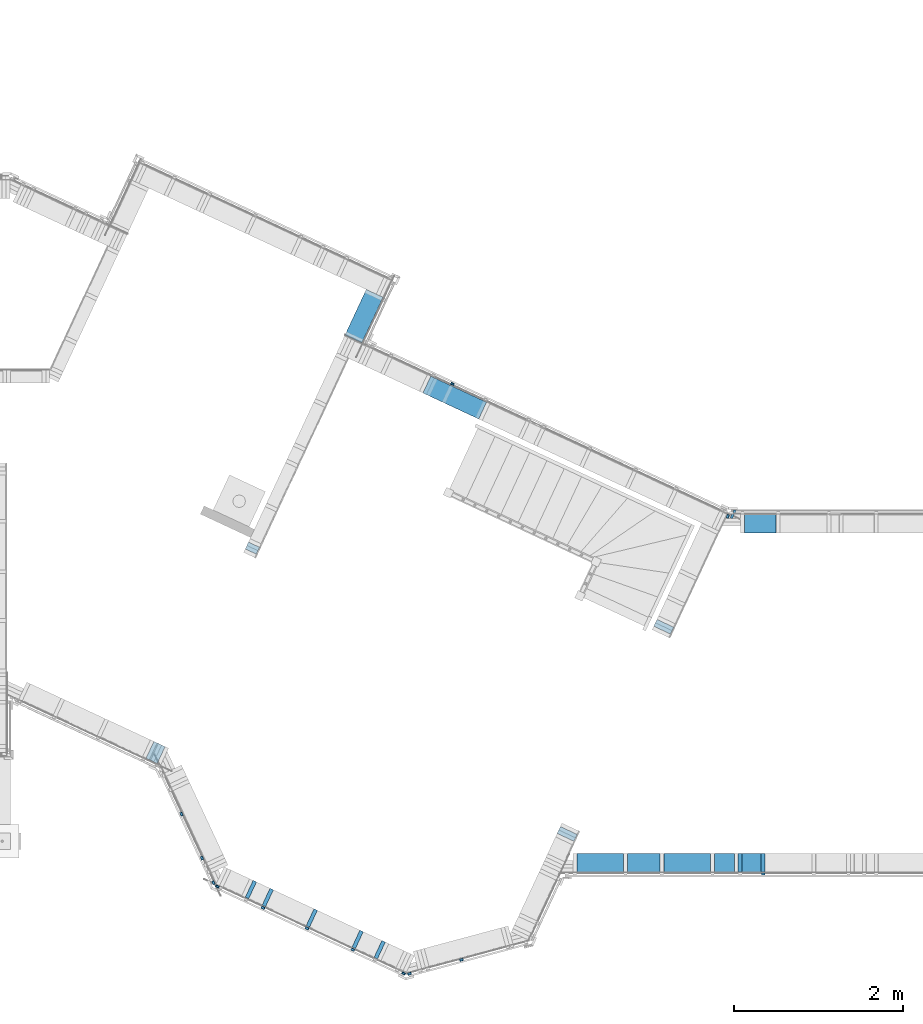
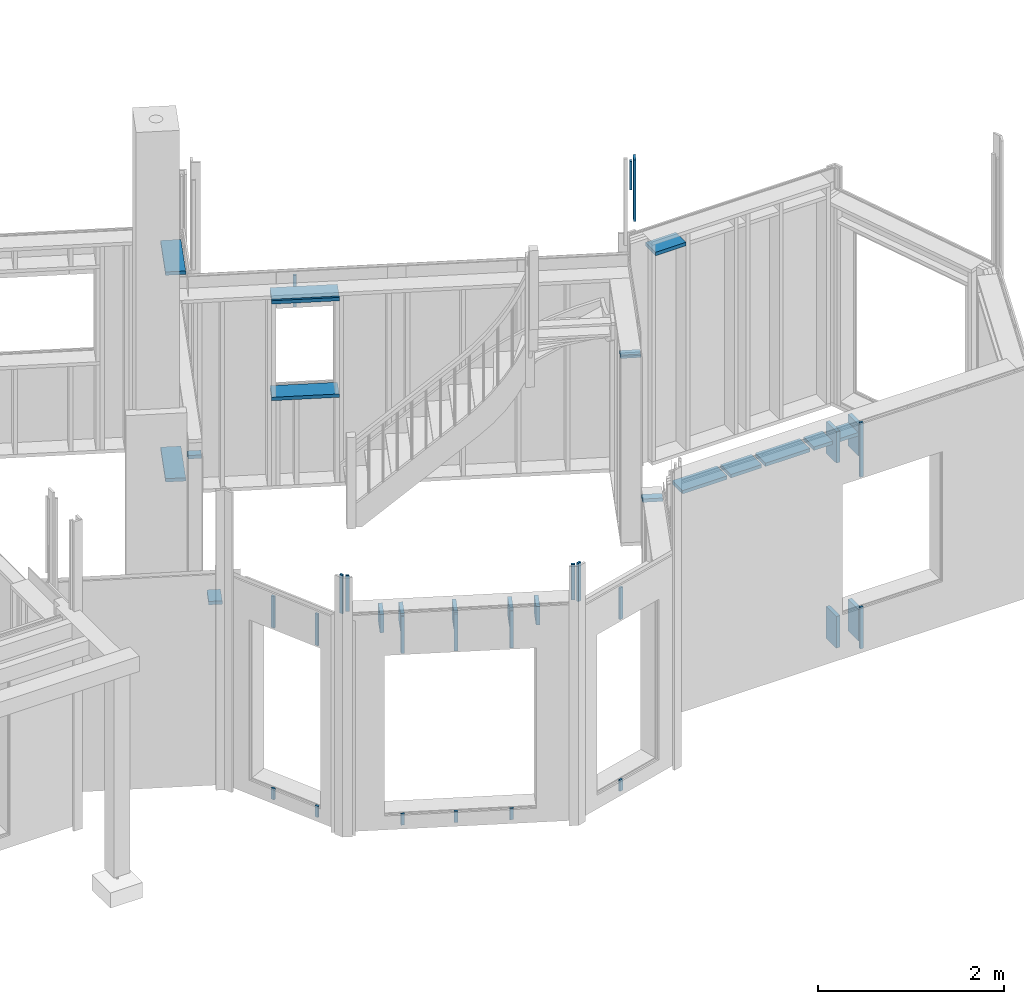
# One storey, part 19 of 34: 45 members.
"""IFC2X3 building model written with IfcOpenShell, lengths in metres."""

from ifc_helpers import new_model, si_unit, direction, frame, origin_with_axes, place, context, subcontext, project, spatial, faceted_brep, material, element, save


model = new_model("IFC2X3")

# Units and contexts
model_context = context("Model", 3, precision=1e-06, world=origin_with_axes(), true_north=direction((0.0, 1.0, 0.0)))
body_context = subcontext(model_context, "Body", "Model", "MODEL_VIEW")
ifc_project = project(units=[si_unit("LENGTHUNIT", "METRE"), si_unit("AREAUNIT", "SQUARE_METRE"), si_unit("VOLUMEUNIT", "CUBIC_METRE"), si_unit("PLANEANGLEUNIT", "RADIAN")], contexts=[model_context])

# Site, building, storey
site_placement = place(None, origin_with_axes())
site = spatial("IfcSite", under=ifc_project, at=site_placement, CompositionType="ELEMENT")
building_placement = place(site_placement, origin_with_axes())
building = spatial("IfcBuilding", under=site, at=building_placement, Name="Building 1", CompositionType="ELEMENT")
storey_placement = place(building_placement, origin_with_axes())
storey = spatial("IfcBuildingStorey", under=building, at=storey_placement, Name="Rez de chaussée", CompositionType="ELEMENT", Elevation=0.0)

# Members
ifc_material_1 = material(Name="Epicéa C24")
member_1_placement = place(storey_placement, frame((9.5995715, -0.5172014, 2.76), z_axis=(-0.4226183, -0.9063078, 0.0), x_axis=(0.0, 0.0, -1.0)))
element("IfcMember", 1, at=member_1_placement, inside=storey, material=ifc_material_1, Name="Montant", context=body_context, shape_type="Brep", body=[
    faceted_brep([(0.0, -0.0225, 0.11), (0.0, 0.0225, 0.11), (0.0, 0.0225, -0.11), (0.0, -0.0225, -0.11), (0.24, -0.0225, -0.11), (0.24, -0.0225, 0.11), (0.24, 0.0225, -0.11), (0.24, 0.0225, 0.11)], [[[0, 1, 2, 3]], [[4, 5, 0, 3]], [[6, 4, 3, 2]], [[7, 6, 2, 1]], [[5, 7, 1, 0]], [[6, 7, 5, 4]]]),
])
member_2_placement = place(storey_placement, frame((11.987401, 5.4772138, 2.675), z_axis=(0.4226183, 0.9063078, 0.0), x_axis=(0.0, 0.0, -1.0)))
element("IfcMember", 2, at=member_2_placement, inside=storey, material=ifc_material_1, Name="latte 27/40", context=body_context, shape_type="Brep", body=[
    faceted_brep([(0.415, -0.02, -0.012), (0.415, -0.02, 0.012), (0.0, -0.02, 0.012), (0.0, -0.02, -0.012), (0.415, 0.02, -0.012), (0.0, 0.02, -0.012), (0.415, 0.02, 0.012), (0.0, 0.02, 0.012)], [[[0, 1, 2, 3]], [[4, 0, 3, 5]], [[6, 4, 5, 7]], [[1, 6, 7, 2]], [[0, 4, 6, 1]], [[2, 7, 5, 3]]]),
])
member_3_placement = place(storey_placement, frame((11.066731, 6.550039, 0.0675), z_axis=(0.9063078, -0.4226183, 0.0), x_axis=(-0.4226183, -0.9063078, 0.0)))
element("IfcMember", 3, at=member_3_placement, inside=storey, material=ifc_material_1, Name="Lisse basse", context=body_context, shape_type="Brep", body=[
    faceted_brep([(0.0, -0.0225, 0.11), (0.0, 0.0225, 0.11), (0.0, 0.0225, -0.11), (0.0, -0.0225, -0.11), (0.5962178, -0.0225, -0.11), (0.5962178, 0.0225, -0.11), (0.5962178, 0.0225, 0.11), (0.5962178, -0.0225, 0.11)], [[[0, 1, 2, 3]], [[4, 5, 6, 7]], [[3, 4, 7, 0]], [[5, 4, 3, 2]], [[6, 5, 2, 1]], [[7, 6, 1, 0]]]),
])
member_4_placement = place(storey_placement, frame((8.776732, 0.3782639, 0.152), z_axis=(-0.9063078, -0.4226183, 0.0), x_axis=(0.0, 0.0, -1.0)))
element("IfcMember", 4, at=member_4_placement, inside=storey, material=ifc_material_1, Name="latte 27/40", context=body_context, shape_type="Brep", body=[
    faceted_brep([(0.147, 0.02, -0.012), (0.147, 0.02, 0.012), (0.147, -0.02, 0.012), (0.147, -0.02, -0.012), (0.0, 0.02, 0.012), (0.0, 0.02, -0.012), (0.0, -0.02, -0.012), (0.0, -0.02, 0.012)], [[[0, 1, 2, 3]], [[4, 5, 6, 7]], [[3, 6, 5, 0]], [[2, 7, 6, 3]], [[1, 4, 7, 2]], [[0, 5, 4, 1]]]),
])
ifc_material_2 = material(Name="NH II")
member_5_placement = place(storey_placement, frame((15.3162671, 3.9332134, 3.18), z_axis=(-0.4226183, -0.9063078, 0.0), x_axis=(0.0, 0.0, 1.0)))
element("IfcMember", 5, at=member_5_placement, inside=storey, material=ifc_material_2, Name="Couvre joint", context=body_context, shape_type="Brep", body=[
    faceted_brep([(0.8110549, 0.0135, -0.0525), (0.8110549, 0.0135, 0.0525), (0.8110549, -0.0135, 0.0525), (0.8110549, -0.0135, -0.0525), (0.0, 0.0135, 0.0525), (0.0, 0.0135, -0.0525), (0.0, -0.0135, -0.0525), (0.0, -0.0135, 0.0525)], [[[0, 1, 2, 3]], [[4, 5, 6, 7]], [[3, 6, 5, 0]], [[2, 7, 6, 3]], [[1, 4, 7, 2]], [[0, 5, 4, 1]]]),
])
member_6_placement = place(storey_placement, frame((11.4792687, -1.5149439, 3.3186496), z_axis=(0.258819, -0.9659258, 0.0), x_axis=(0.0, 0.0, -1.0)))
element("IfcMember", 6, at=member_6_placement, inside=storey, material=ifc_material_1, Name="latte chantier", context=body_context, shape_type="Brep", body=[
    faceted_brep([(0.5086496, 0.02, -0.012), (0.5086496, 0.02, 0.012), (0.5086496, -0.02, 0.012), (0.5086496, -0.02, -0.012), (0.0, 0.02, 0.012), (0.0, 0.02, -0.012), (0.0, -0.02, -0.012), (0.0, -0.02, 0.012)], [[[0, 1, 2, 3]], [[4, 5, 6, 7]], [[3, 6, 5, 0]], [[2, 7, 6, 3]], [[1, 4, 7, 2]], [[0, 5, 4, 1]]]),
])
member_7_placement = place(storey_placement, frame((15.6483032, -0.19822, 2.807), z_axis=(0.0, -1.0, 0.0), x_axis=(-1.0, 0.0, 0.0)))
element("IfcMember", 7, at=member_7_placement, inside=storey, material=ifc_material_1, Name="Montant", context=body_context, shape_type="Brep", body=[
    faceted_brep([(0.0, 0.0225, -0.11), (0.0, -0.0225, -0.11), (0.0, -0.0225, 0.11), (0.0, 0.0225, 0.11), (0.2247667, -0.0225, -0.11), (0.2247667, -0.0225, 0.11), (0.2247667, 0.0225, -0.11), (0.2247667, 0.0225, 0.11)], [[[0, 1, 2, 3]], [[2, 1, 4, 5]], [[1, 0, 6, 4]], [[5, 4, 6, 7]], [[3, 2, 5, 7]], [[0, 3, 7, 6]]]),
])
member_8_placement = place(storey_placement, frame((9.0199489, -0.1433163, 2.675), z_axis=(-0.9063078, -0.4226183, 0.0), x_axis=(0.0, 0.0, -1.0)))
element("IfcMember", 8, at=member_8_placement, inside=storey, material=ifc_material_1, Name="latte 27/40", context=body_context, shape_type="Brep", body=[
    faceted_brep([(0.415, 0.02, -0.012), (0.415, 0.02, 0.012), (0.415, -0.02, 0.012), (0.415, -0.02, -0.012), (0.0, 0.02, 0.012), (0.0, 0.02, -0.012), (0.0, -0.02, -0.012), (0.0, -0.02, 0.012)], [[[0, 1, 2, 3]], [[4, 5, 6, 7]], [[3, 6, 5, 0]], [[2, 7, 6, 3]], [[1, 4, 7, 2]], [[0, 5, 4, 1]]]),
])
member_9_placement = place(storey_placement, frame((9.0199489, -0.1433163, 0.152), z_axis=(-0.9063078, -0.4226183, 0.0), x_axis=(0.0, 0.0, -1.0)))
element("IfcMember", 9, at=member_9_placement, inside=storey, material=ifc_material_1, Name="latte 27/40", context=body_context, shape_type="Brep", body=[
    faceted_brep([(0.147, 0.02, -0.012), (0.147, 0.02, 0.012), (0.147, -0.02, 0.012), (0.147, -0.02, -0.012), (0.0, 0.02, 0.012), (0.0, 0.02, -0.012), (0.0, -0.02, -0.012), (0.0, -0.02, 0.012)], [[[0, 1, 2, 3]], [[4, 5, 6, 7]], [[3, 6, 5, 0]], [[2, 7, 6, 3]], [[1, 4, 7, 2]], [[0, 5, 4, 1]]]),
])
for number, where, z_axis, x_axis, name in (
    (10, (8.776732, 0.3782639, 2.675), (-0.9063078, -0.4226183, 0.0), (0.0, 0.0, -1.0), "latte 27/40"),
    (11, (12.0950464, -1.3499468, 2.675), (0.258819, -0.9659258, 0.0), (0.0, 0.0, -1.0), "latte 27/40"),
):
    element("IfcMember", number, at=place(storey_placement, frame(where, z_axis=z_axis, x_axis=x_axis)), inside=storey, material=ifc_material_1, Name=name, context=body_context, shape_type="Brep", body=[
        faceted_brep([(0.415, 0.02, -0.012), (0.415, 0.02, 0.012), (0.415, -0.02, 0.012), (0.415, -0.02, -0.012), (0.0, 0.02, 0.012), (0.0, 0.02, -0.012), (0.0, -0.02, -0.012), (0.0, -0.02, 0.012)], [[[0, 1, 2, 3]], [[4, 5, 6, 7]], [[3, 6, 5, 0]], [[2, 7, 6, 3]], [[1, 4, 7, 2]], [[0, 5, 4, 1]]]),
    ])
member_10_placement = place(storey_placement, frame((11.1267001, -1.2293131, 2.76), z_axis=(-0.4226183, -0.9063078, 0.0), x_axis=(0.0, 0.0, -1.0)))
element("IfcMember", 12, at=member_10_placement, inside=storey, material=ifc_material_1, Name="Montant", context=body_context, shape_type="Brep", body=[
    faceted_brep([(0.0, -0.0225, 0.11), (0.0, 0.0225, 0.11), (0.0, 0.0225, -0.11), (0.0, -0.0225, -0.11), (0.24, -0.0225, -0.11), (0.24, -0.0225, 0.11), (0.24, 0.0225, -0.11), (0.24, 0.0225, 0.11)], [[[0, 1, 2, 3]], [[4, 5, 0, 3]], [[6, 4, 3, 2]], [[7, 6, 2, 1]], [[5, 7, 1, 0]], [[6, 7, 5, 4]]]),
])
member_11_placement = place(storey_placement, frame((12.0950464, -1.3499468, 0.152), z_axis=(0.258819, -0.9659258, 0.0), x_axis=(0.0, 0.0, -1.0)))
element("IfcMember", 13, at=member_11_placement, inside=storey, material=ifc_material_1, Name="latte 27/40", context=body_context, shape_type="Brep", body=[
    faceted_brep([(0.147, 0.02, -0.012), (0.147, 0.02, 0.012), (0.147, -0.02, 0.012), (0.147, -0.02, -0.012), (0.0, 0.02, 0.012), (0.0, 0.02, -0.012), (0.0, -0.02, -0.012), (0.0, -0.02, 0.012)], [[[0, 1, 2, 3]], [[4, 5, 6, 7]], [[3, 6, 5, 0]], [[2, 7, 6, 3]], [[1, 4, 7, 2]], [[0, 5, 4, 1]]]),
])
member_12_placement = place(storey_placement, frame((9.7999195, -0.6106252, 2.76), z_axis=(-0.4226183, -0.9063078, 0.0), x_axis=(0.0, 0.0, -1.0)))
element("IfcMember", 14, at=member_12_placement, inside=storey, material=ifc_material_1, Name="Montant", context=body_context, shape_type="Brep", body=[
    faceted_brep([(0.0, -0.0225, 0.11), (0.0, 0.0225, 0.11), (0.0, 0.0225, -0.11), (0.0, -0.0225, -0.11), (0.24, -0.0225, -0.11), (0.24, -0.0225, 0.11), (0.24, 0.0225, -0.11), (0.24, 0.0225, 0.11)], [[[0, 1, 2, 3]], [[4, 5, 0, 3]], [[6, 4, 3, 2]], [[7, 6, 2, 1]], [[5, 7, 1, 0]], [[6, 7, 5, 4]]]),
])
member_13_placement = place(storey_placement, frame((15.6708032, -0.19822, 2.935), z_axis=(0.0, -1.0, 0.0), x_axis=(0.0, 0.0, -1.0)))
element("IfcMember", 15, at=member_13_placement, inside=storey, material=ifc_material_1, Name="Montant", context=body_context, shape_type="Brep", body=[
    faceted_brep([(0.0, 0.0225, 0.11), (0.0, -0.0225, 0.11), (0.415, -0.0225, 0.11), (0.415, 0.0225, 0.11), (0.415, 0.0225, -0.11), (0.0, 0.0225, -0.11), (0.415, -0.0225, -0.11), (0.0, -0.0225, -0.11)], [[[0, 1, 2, 3]], [[3, 4, 5, 0]], [[4, 6, 7, 5]], [[6, 2, 1, 7]], [[2, 6, 4, 3]], [[1, 0, 5, 7]]]),
])
member_14_placement = place(storey_placement, frame((12.3467978, 5.1606684, 2.4975), z_axis=(0.4226183, 0.9063078, 0.0), x_axis=(-0.9063078, 0.4226183, 0.0)))
element("IfcMember", 16, at=member_14_placement, inside=storey, material=ifc_material_1, Name="Montant", context=body_context, shape_type="Brep", body=[
    faceted_brep([(0.73, -0.0225, -0.11), (0.73, 0.0225, -0.11), (0.73, 0.0225, 0.11), (0.73, -0.0225, 0.11), (0.0, 0.0225, 0.11), (0.0, -0.0225, 0.11), (0.0, 0.0225, -0.11), (0.0, -0.0225, -0.11)], [[[0, 1, 2, 3]], [[3, 2, 4, 5]], [[2, 1, 6, 4]], [[6, 7, 5, 4]], [[0, 3, 5, 7]], [[1, 0, 7, 6]]]),
])
member_15_placement = place(storey_placement, frame((11.4105973, -1.5106526, 3.3186496), z_axis=(-0.4226183, -0.9063078, 0.0), x_axis=(0.0, 0.0, -1.0)))
element("IfcMember", 17, at=member_15_placement, inside=storey, material=ifc_material_1, Name="latte chantier", context=body_context, shape_type="Brep", body=[
    faceted_brep([(0.4686496, 0.02, 0.012), (0.0, 0.02, 0.012), (0.0, -0.02, 0.012), (0.4686496, -0.02, 0.012), (0.0, -0.02, -0.012), (0.4686496, -0.02, -0.012), (0.0, 0.02, -0.012), (0.4686496, 0.02, -0.012)], [[[0, 1, 2, 3]], [[3, 2, 4, 5]], [[5, 4, 6, 7]], [[7, 6, 1, 0]], [[7, 0, 3, 5]], [[1, 6, 4, 2]]]),
])
member_16_placement = place(storey_placement, frame((15.3980365, -0.19822, 2.935), z_axis=(0.0, -1.0, 0.0), x_axis=(0.0, 0.0, -1.0)))
element("IfcMember", 18, at=member_16_placement, inside=storey, material=ifc_material_1, Name="Montant", context=body_context, shape_type="Brep", body=[
    faceted_brep([(0.0, 0.0225, 0.11), (0.0, -0.0225, 0.11), (0.415, -0.0225, 0.11), (0.415, 0.0225, 0.11), (0.415, 0.0225, -0.11), (0.0, 0.0225, -0.11), (0.415, -0.0225, -0.11), (0.0, -0.0225, -0.11)], [[[0, 1, 2, 3]], [[3, 4, 5, 0]], [[4, 6, 7, 5]], [[6, 2, 1, 7]], [[2, 6, 4, 3]], [[1, 0, 5, 7]]]),
])
member_17_placement = place(storey_placement, frame((15.3980365, -0.19822, 0.507), z_axis=(0.0, -1.0, 0.0), x_axis=(0.0, 0.0, -1.0)))
element("IfcMember", 19, at=member_17_placement, inside=storey, material=ifc_material_1, Name="Montant", context=body_context, shape_type="Brep", body=[
    faceted_brep([(0.417, -0.0225, -0.11), (0.417, 0.0225, -0.11), (0.417, 0.0225, 0.11), (0.417, -0.0225, 0.11), (0.0, -0.0225, 0.11), (0.0, -0.0225, -0.11), (0.0, 0.0225, -0.11), (0.0, 0.0225, 0.11)], [[[0, 1, 2, 3]], [[0, 3, 4, 5]], [[1, 0, 5, 6]], [[2, 1, 6, 7]], [[3, 2, 7, 4]], [[4, 7, 6, 5]]]),
])
member_18_placement = place(storey_placement, frame((9.742866, -0.7329767, 2.745), z_axis=(-0.4226183, -0.9063078, 0.0), x_axis=(0.0, 0.0, -1.0)))
element("IfcMember", 20, at=member_18_placement, inside=storey, material=ifc_material_1, Name="latte 27/40", context=body_context, shape_type="Brep", body=[
    faceted_brep([(0.0, -0.02, 0.012), (0.0, 0.02, 0.012), (0.0, 0.02, -0.012), (0.0, -0.02, -0.012), (0.485, -0.02, 0.012), (0.485, 0.02, 0.012), (0.485, -0.02, -0.012), (0.485, 0.02, -0.012)], [[[0, 1, 2, 3]], [[4, 5, 1, 0]], [[6, 4, 0, 3]], [[5, 7, 2, 1]], [[7, 6, 3, 2]], [[5, 4, 6, 7]]]),
])
member_19_placement = place(storey_placement, frame((13.3294192, 0.10187, 2.5025), z_axis=(-0.9063078, 0.4226183, 0.0), x_axis=(0.4226183, 0.9063078, 0.0)))
element("IfcMember", 21, at=member_19_placement, inside=storey, material=ifc_material_1, Name="Montant", context=body_context, shape_type="Brep", body=[
    faceted_brep([(0.0, -0.0225, -0.11), (0.0, -0.0225, 0.11), (0.0, 0.0225, 0.11), (0.0, 0.0225, -0.11), (0.09, -0.0225, 0.11), (0.09, 0.0225, 0.11), (0.09, -0.0225, -0.11), (0.09, 0.0225, -0.11)], [[[0, 1, 2, 3]], [[2, 1, 4, 5]], [[1, 0, 6, 4]], [[5, 4, 6, 7]], [[0, 3, 7, 6]], [[3, 2, 5, 7]]]),
])
member_20_placement = place(storey_placement, frame((15.2527816, 3.9070966, 3.9860549), z_axis=(0.9063078, -0.4226183, 0.0), x_axis=(0.0, 0.0, -1.0)))
element("IfcMember", 22, at=member_20_placement, inside=storey, material=ifc_material_1, Name="latte chantier", context=body_context, shape_type="Brep", body=[
    faceted_brep([(0.3776331, 0.02, -0.012), (0.3776331, 0.02, 0.012), (0.3776331, -0.02, 0.012), (0.3776331, -0.02, -0.012), (0.0, 0.02, 0.012), (0.0, 0.02, -0.012), (0.0, -0.02, -0.012), (0.0, -0.02, 0.012)], [[[0, 1, 2, 3]], [[4, 5, 6, 7]], [[3, 6, 5, 0]], [[2, 7, 6, 3]], [[1, 4, 7, 2]], [[0, 5, 4, 1]]]),
])
member_21_placement = place(storey_placement, frame((15.3305365, -0.19822, 2.807), z_axis=(0.0, -1.0, 0.0), x_axis=(-1.0, 0.0, 0.0)))
element("IfcMember", 23, at=member_21_placement, inside=storey, material=ifc_material_1, Name="Montant", context=body_context, shape_type="Brep", body=[
    faceted_brep([(0.0, -0.0225, 0.11), (0.0, 0.0225, 0.11), (0.0, 0.0225, -0.11), (0.0, -0.0225, -0.11), (0.2342333, 0.0225, 0.11), (0.2342333, 0.0225, -0.11), (0.2342333, -0.0225, 0.11), (0.2342333, -0.0225, -0.11)], [[[0, 1, 2, 3]], [[2, 1, 4, 5]], [[1, 0, 6, 4]], [[5, 4, 6, 7]], [[3, 2, 5, 7]], [[0, 3, 7, 6]]]),
])
member_22_placement = place(storey_placement, frame((10.2644461, -0.9761935, 2.745), z_axis=(-0.4226183, -0.9063078, 0.0), x_axis=(0.0, 0.0, -1.0)))
element("IfcMember", 24, at=member_22_placement, inside=storey, material=ifc_material_1, Name="latte 27/40", context=body_context, shape_type="Brep", body=[
    faceted_brep([(0.0, -0.02, 0.012), (0.0, 0.02, 0.012), (0.0, 0.02, -0.012), (0.0, -0.02, -0.012), (0.485, -0.02, 0.012), (0.485, 0.02, 0.012), (0.485, -0.02, -0.012), (0.485, 0.02, -0.012)], [[[0, 1, 2, 3]], [[4, 5, 1, 0]], [[6, 4, 0, 3]], [[5, 7, 2, 1]], [[7, 6, 3, 2]], [[5, 4, 6, 7]]]),
])
member_23_placement = place(storey_placement, frame((10.2644461, -0.9761935, 0.152), z_axis=(-0.4226183, -0.9063078, 0.0), x_axis=(0.0, 0.0, -1.0)))
element("IfcMember", 25, at=member_23_placement, inside=storey, material=ifc_material_1, Name="latte 27/40", context=body_context, shape_type="Brep", body=[
    faceted_brep([(0.0, -0.02, 0.012), (0.0, 0.02, 0.012), (0.0, 0.02, -0.012), (0.0, -0.02, -0.012), (0.147, 0.02, -0.012), (0.147, -0.02, -0.012), (0.147, 0.02, 0.012), (0.147, -0.02, 0.012)], [[[0, 1, 2, 3]], [[3, 2, 4, 5]], [[2, 1, 6, 4]], [[1, 0, 7, 6]], [[6, 7, 5, 4]], [[0, 3, 5, 7]]]),
])
member_24_placement = place(storey_placement, frame((10.8652843, -1.1074129, 2.76), z_axis=(-0.4226183, -0.9063078, 0.0), x_axis=(0.0, 0.0, -1.0)))
element("IfcMember", 26, at=member_24_placement, inside=storey, material=ifc_material_1, Name="Montant", context=body_context, shape_type="Brep", body=[
    faceted_brep([(0.0, -0.0225, 0.11), (0.0, 0.0225, 0.11), (0.0, 0.0225, -0.11), (0.0, -0.0225, -0.11), (0.24, -0.0225, -0.11), (0.24, -0.0225, 0.11), (0.24, 0.0225, -0.11), (0.24, 0.0225, 0.11)], [[[0, 1, 2, 3]], [[4, 5, 0, 3]], [[6, 4, 3, 2]], [[7, 6, 2, 1]], [[5, 7, 1, 0]], [[6, 7, 5, 4]]]),
])
member_25_placement = place(storey_placement, frame((10.8082308, -1.2297645, 0.152), z_axis=(-0.4226183, -0.9063078, 0.0), x_axis=(0.0, 0.0, -1.0)))
element("IfcMember", 27, at=member_25_placement, inside=storey, material=ifc_material_1, Name="latte 27/40", context=body_context, shape_type="Brep", body=[
    faceted_brep([(0.0, -0.02, 0.012), (0.0, 0.02, 0.012), (0.0, 0.02, -0.012), (0.0, -0.02, -0.012), (0.147, 0.02, -0.012), (0.147, -0.02, -0.012), (0.147, 0.02, 0.012), (0.147, -0.02, 0.012)], [[[0, 1, 2, 3]], [[3, 2, 4, 5]], [[2, 1, 6, 4]], [[1, 0, 7, 6]], [[6, 7, 5, 4]], [[0, 3, 5, 7]]]),
])
member_26_placement = place(storey_placement, frame((10.8082308, -1.2297645, 2.745), z_axis=(-0.4226183, -0.9063078, 0.0), x_axis=(0.0, 0.0, -1.0)))
element("IfcMember", 28, at=member_26_placement, inside=storey, material=ifc_material_1, Name="latte 27/40", context=body_context, shape_type="Brep", body=[
    faceted_brep([(0.0, -0.02, 0.012), (0.0, 0.02, 0.012), (0.0, 0.02, -0.012), (0.0, -0.02, -0.012), (0.485, -0.02, 0.012), (0.485, 0.02, 0.012), (0.485, -0.02, -0.012), (0.485, 0.02, -0.012)], [[[0, 1, 2, 3]], [[4, 5, 1, 0]], [[6, 4, 0, 3]], [[5, 7, 2, 1]], [[7, 6, 3, 2]], [[5, 4, 6, 7]]]),
])
member_27_placement = place(storey_placement, frame((10.3214996, -0.853842, 2.76), z_axis=(-0.4226183, -0.9063078, 0.0), x_axis=(0.0, 0.0, -1.0)))
element("IfcMember", 29, at=member_27_placement, inside=storey, material=ifc_material_1, Name="Montant", context=body_context, shape_type="Brep", body=[
    faceted_brep([(0.0, -0.0225, 0.11), (0.0, 0.0225, 0.11), (0.0, 0.0225, -0.11), (0.0, -0.0225, -0.11), (0.24, -0.0225, -0.11), (0.24, -0.0225, 0.11), (0.24, 0.0225, -0.11), (0.24, 0.0225, 0.11)], [[[0, 1, 2, 3]], [[4, 5, 0, 3]], [[6, 4, 3, 2]], [[7, 6, 2, 1]], [[5, 7, 1, 0]], [[6, 7, 5, 4]]]),
])
member_28_placement = place(storey_placement, frame((15.6708032, -0.33322, 2.975), z_axis=(0.0, -1.0, 0.0), x_axis=(0.0, 0.0, -1.0)))
element("IfcMember", 30, at=member_28_placement, inside=storey, material=ifc_material_1, Name="latte 27/40", context=body_context, shape_type="Brep", body=[
    faceted_brep([(0.715, -0.02, -0.012), (0.715, -0.02, 0.012), (0.0, -0.02, 0.012), (0.0, -0.02, -0.012), (0.715, 0.02, -0.012), (0.0, 0.02, -0.012), (0.715, 0.02, 0.012), (0.0, 0.02, 0.012)], [[[0, 1, 2, 3]], [[4, 0, 3, 5]], [[6, 4, 5, 7]], [[1, 6, 7, 2]], [[6, 1, 0, 4]], [[2, 7, 5, 3]]]),
])
member_29_placement = place(storey_placement, frame((9.5984317, 3.4899937, 2.3225), z_axis=(-0.9063078, 0.4226183, 0.0), x_axis=(0.4226183, 0.9063078, 0.0)))
element("IfcMember", 31, at=member_29_placement, inside=storey, material=ifc_material_1, Name="Montant", context=body_context, shape_type="Brep", body=[
    faceted_brep([(0.0, 0.0225, -0.0725), (0.09, 0.0225, -0.0725), (0.09, -0.0225, -0.0725), (0.0, -0.0225, -0.0725), (0.09, 0.0225, 0.0725), (0.09, -0.0225, 0.0725), (0.0, -0.0225, 0.0725), (0.0, 0.0225, 0.0725)], [[[0, 1, 2, 3]], [[4, 5, 2, 1]], [[5, 6, 3, 2]], [[7, 4, 1, 0]], [[6, 5, 4, 7]], [[6, 7, 0, 3]]]),
])
member_30_placement = place(storey_placement, frame((14.4746404, 2.5578047, 2.5025), z_axis=(-0.9063078, 0.4226183, 0.0), x_axis=(0.4226183, 0.9063078, 0.0)))
element("IfcMember", 32, at=member_30_placement, inside=storey, material=ifc_material_1, Name="Montant", context=body_context, shape_type="Brep", body=[
    faceted_brep([(0.0, -0.0225, -0.11), (0.0, -0.0225, 0.11), (0.0, 0.0225, 0.11), (0.0, 0.0225, -0.11), (0.09, -0.0225, 0.11), (0.09, 0.0225, 0.11), (0.09, -0.0225, -0.11), (0.09, 0.0225, -0.11)], [[[0, 1, 2, 3]], [[2, 1, 4, 5]], [[1, 0, 6, 4]], [[5, 4, 6, 7]], [[0, 3, 7, 6]], [[3, 2, 5, 7]]]),
])
member_31_placement = place(storey_placement, frame((15.8261781, 3.8177799, 2.807), z_axis=(0.0, -1.0, 0.0), x_axis=(-1.0, 0.0, 0.0)))
element("IfcMember", 33, at=member_31_placement, inside=storey, material=ifc_material_1, Name="Montant", context=body_context, shape_type="Brep", body=[
    faceted_brep([(0.0, 0.0225, -0.11), (0.0, -0.0225, -0.11), (0.0, -0.0225, 0.11), (0.0, 0.0225, 0.11), (0.3760472, -0.0225, -0.11), (0.3760472, -0.0225, 0.11), (0.3760472, 0.0225, -0.11), (0.3760472, 0.0225, 0.11)], [[[0, 1, 2, 3]], [[2, 1, 4, 5]], [[1, 0, 6, 4]], [[0, 3, 7, 6]], [[3, 2, 5, 7]], [[7, 5, 4, 6]]]),
])
member_32_placement = place(storey_placement, frame((15.0483032, -0.19822, 2.807), z_axis=(0.0, -1.0, 0.0), x_axis=(-1.0, 0.0, 0.0)))
element("IfcMember", 34, at=member_32_placement, inside=storey, material=ifc_material_1, Name="Montant", context=body_context, shape_type="Brep", body=[
    faceted_brep([(0.552, 0.0225, -0.11), (0.552, 0.0225, 0.11), (0.552, -0.0225, 0.11), (0.552, -0.0225, -0.11), (0.0, 0.0225, 0.11), (0.0, -0.0225, 0.11), (0.0, 0.0225, -0.11), (0.0, -0.0225, -0.11)], [[[0, 1, 2, 3]], [[2, 1, 4, 5]], [[1, 0, 6, 4]], [[5, 4, 6, 7]], [[3, 2, 5, 7]], [[0, 3, 7, 6]]]),
])
member_33_placement = place(storey_placement, frame((14.4483032, -0.19822, 2.807), z_axis=(0.0, -1.0, 0.0), x_axis=(-1.0, 0.0, 0.0)))
element("IfcMember", 35, at=member_33_placement, inside=storey, material=ifc_material_1, Name="Montant", context=body_context, shape_type="Brep", body=[
    faceted_brep([(0.0, -0.0225, -0.11), (0.0, 0.0225, -0.11), (0.3825, 0.0225, -0.11), (0.3825, -0.0225, -0.11), (0.0, -0.0225, 0.11), (0.3825, -0.0225, 0.11), (0.0, 0.0225, 0.11), (0.3825, 0.0225, 0.11)], [[[0, 1, 2, 3]], [[4, 0, 3, 5]], [[6, 4, 5, 7]], [[1, 6, 7, 2]], [[4, 6, 1, 0]], [[2, 7, 5, 3]]]),
])
member_34_placement = place(storey_placement, frame((14.0178032, -0.19822, 2.807), z_axis=(0.0, -1.0, 0.0), x_axis=(-1.0, 0.0, 0.0)))
element("IfcMember", 36, at=member_34_placement, inside=storey, material=ifc_material_1, Name="Montant", context=body_context, shape_type="Brep", body=[
    faceted_brep([(0.552, 0.0225, -0.11), (0.552, 0.0225, 0.11), (0.552, -0.0225, 0.11), (0.552, -0.0225, -0.11), (0.0, 0.0225, 0.11), (0.0, -0.0225, 0.11), (0.0, 0.0225, -0.11), (0.0, -0.0225, -0.11)], [[[0, 1, 2, 3]], [[2, 1, 4, 5]], [[1, 0, 6, 4]], [[5, 4, 6, 7]], [[3, 2, 5, 7]], [[0, 3, 7, 6]]]),
])
member_35_placement = place(storey_placement, frame((8.4030237, 1.1396276, 2.3225), z_axis=(0.4226183, 0.9063078, 0.0), x_axis=(0.9063078, -0.4226183, 0.0)))
element("IfcMember", 37, at=member_35_placement, inside=storey, material=ifc_material_1, Name="Montant", context=body_context, shape_type="Brep", body=[
    faceted_brep([(0.0, -0.0225, -0.11), (0.0, -0.0225, 0.11), (0.0, 0.0225, 0.11), (0.0, 0.0225, -0.11), (0.1469546, -0.0225, 0.11), (0.1469546, 0.0225, 0.11), (0.1469546, -0.0225, -0.11), (0.1469546, 0.0225, -0.11)], [[[0, 1, 2, 3]], [[2, 1, 4, 5]], [[1, 0, 6, 4]], [[5, 4, 6, 7]], [[0, 3, 7, 6]], [[3, 2, 5, 7]]]),
])
member_36_placement = place(storey_placement, frame((11.066731, 6.550039, 2.7825), z_axis=(0.9063078, -0.4226183, 0.0), x_axis=(-0.4226183, -0.9063078, 0.0)))
element("IfcMember", 38, at=member_36_placement, inside=storey, material=ifc_material_1, Name="Montant", context=body_context, shape_type="Brep", body=[
    faceted_brep([(0.0, -0.0225, 0.11), (0.0, 0.0225, 0.11), (0.0, 0.0225, -0.11), (0.0, -0.0225, -0.11), (0.5962178, -0.0225, -0.11), (0.5962178, 0.0225, -0.11), (0.5962178, 0.0225, 0.11), (0.5962178, -0.0225, 0.11)], [[[0, 1, 2, 3]], [[4, 5, 6, 7]], [[3, 4, 7, 0]], [[5, 4, 3, 2]], [[6, 5, 2, 1]], [[7, 6, 1, 0]]]),
])
member_37_placement = place(storey_placement, frame((9.1560317, -0.4351469, 3.3186496), z_axis=(-0.9063078, -0.4226183, 0.0), x_axis=(0.0, 0.0, -1.0)))
element("IfcMember", 39, at=member_37_placement, inside=storey, material=ifc_material_1, Name="latte chantier", context=body_context, shape_type="Brep", body=[
    faceted_brep([(0.5086496, 0.02, -0.012), (0.5086496, 0.02, 0.012), (0.5086496, -0.02, 0.012), (0.5086496, -0.02, -0.012), (0.0, 0.02, 0.012), (0.0, 0.02, -0.012), (0.0, -0.02, -0.012), (0.0, -0.02, 0.012)], [[[0, 1, 2, 3]], [[4, 5, 6, 7]], [[3, 6, 5, 0]], [[2, 7, 6, 3]], [[1, 4, 7, 2]], [[0, 5, 4, 1]]]),
])
member_38_placement = place(storey_placement, frame((9.2013471, -0.4804623, 3.3186496), z_axis=(-0.4226183, -0.9063078, 0.0), x_axis=(0.0, 0.0, -1.0)))
element("IfcMember", 40, at=member_38_placement, inside=storey, material=ifc_material_1, Name="latte chantier", context=body_context, shape_type="Brep", body=[
    faceted_brep([(0.4686496, 0.02, 0.012), (0.0, 0.02, 0.012), (0.0, -0.02, 0.012), (0.4686496, -0.02, 0.012), (0.0, -0.02, -0.012), (0.4686496, -0.02, -0.012), (0.0, 0.02, -0.012), (0.4686496, 0.02, -0.012)], [[[0, 1, 2, 3]], [[3, 2, 4, 5]], [[5, 4, 6, 7]], [[7, 6, 1, 0]], [[7, 0, 3, 5]], [[1, 6, 4, 2]]]),
])
member_39_placement = place(storey_placement, frame((12.3467978, 5.1606684, 1.2295), z_axis=(0.4226183, 0.9063078, 0.0), x_axis=(-0.9063078, 0.4226183, 0.0)))
element("IfcMember", 41, at=member_39_placement, inside=storey, material=ifc_material_1, Name="Montant", context=body_context, shape_type="Brep", body=[
    faceted_brep([(0.73, -0.0225, -0.11), (0.73, 0.0225, -0.11), (0.73, 0.0225, 0.11), (0.73, -0.0225, 0.11), (0.0, 0.0225, 0.11), (0.0, -0.0225, 0.11), (0.0, 0.0225, -0.11), (0.0, -0.0225, -0.11)], [[[0, 1, 2, 3]], [[3, 2, 4, 5]], [[2, 1, 6, 4]], [[6, 7, 5, 4]], [[0, 3, 5, 7]], [[1, 0, 7, 6]]]),
])
member_40_placement = place(storey_placement, frame((15.6708032, -0.19822, 0.507), z_axis=(0.0, -1.0, 0.0), x_axis=(0.0, 0.0, -1.0)))
element("IfcMember", 42, at=member_40_placement, inside=storey, material=ifc_material_1, Name="Montant", context=body_context, shape_type="Brep", body=[
    faceted_brep([(0.417, -0.0225, -0.11), (0.417, 0.0225, -0.11), (0.417, 0.0225, 0.11), (0.417, -0.0225, 0.11), (0.0, -0.0225, 0.11), (0.0, -0.0225, -0.11), (0.0, 0.0225, -0.11), (0.0, 0.0225, 0.11)], [[[0, 1, 2, 3]], [[0, 3, 4, 5]], [[1, 0, 5, 6]], [[2, 1, 6, 7]], [[3, 2, 7, 4]], [[4, 7, 6, 5]]]),
])
member_41_placement = place(storey_placement, frame((15.6708032, -0.33322, 0.552), z_axis=(0.0, -1.0, 0.0), x_axis=(0.0, 0.0, -1.0)))
element("IfcMember", 43, at=member_41_placement, inside=storey, material=ifc_material_1, Name="latte 27/40", context=body_context, shape_type="Brep", body=[
    faceted_brep([(0.547, 0.02, 0.012), (0.547, -0.02, 0.012), (0.547, -0.02, -0.012), (0.547, 0.02, -0.012), (0.0, 0.02, 0.012), (0.0, -0.02, 0.012), (0.0, 0.02, -0.012), (0.0, -0.02, -0.012)], [[[0, 1, 2, 3]], [[4, 5, 1, 0]], [[6, 4, 0, 3]], [[7, 6, 3, 2]], [[5, 7, 2, 1]], [[5, 4, 6, 7]]]),
])
member_42_placement = place(storey_placement, frame((9.742866, -0.7329767, 0.152), z_axis=(-0.4226183, -0.9063078, 0.0), x_axis=(0.0, 0.0, -1.0)))
element("IfcMember", 44, at=member_42_placement, inside=storey, material=ifc_material_1, Name="latte 27/40", context=body_context, shape_type="Brep", body=[
    faceted_brep([(0.0, -0.02, 0.012), (0.0, 0.02, 0.012), (0.0, 0.02, -0.012), (0.0, -0.02, -0.012), (0.147, 0.02, -0.012), (0.147, -0.02, -0.012), (0.147, 0.02, 0.012), (0.147, -0.02, 0.012)], [[[0, 1, 2, 3]], [[3, 2, 4, 5]], [[2, 1, 6, 4]], [[1, 0, 7, 6]], [[6, 7, 5, 4]], [[0, 3, 5, 7]]]),
])
member_43_placement = place(storey_placement, frame((12.3467978, 5.1606684, 2.53), z_axis=(0.4226183, 0.9063078, 0.0), x_axis=(-0.9063078, 0.4226183, 0.0)))
element("IfcMember", 45, at=member_43_placement, inside=storey, material=ifc_material_1, Name="Montant", context=body_context, shape_type="Brep", body=[
    faceted_brep([(0.73, 0.01, 0.11), (0.73, 0.01, -0.11), (0.0, 0.01, -0.11), (0.0, 0.01, 0.11), (0.73, -0.01, -0.11), (0.0, -0.01, -0.11), (0.73, -0.01, 0.11), (0.0, -0.01, 0.11)], [[[0, 1, 2, 3]], [[2, 1, 4, 5]], [[1, 0, 6, 4]], [[0, 3, 7, 6]], [[3, 2, 5, 7]], [[4, 6, 7, 5]]]),
])

save(model, "model.ifc")
